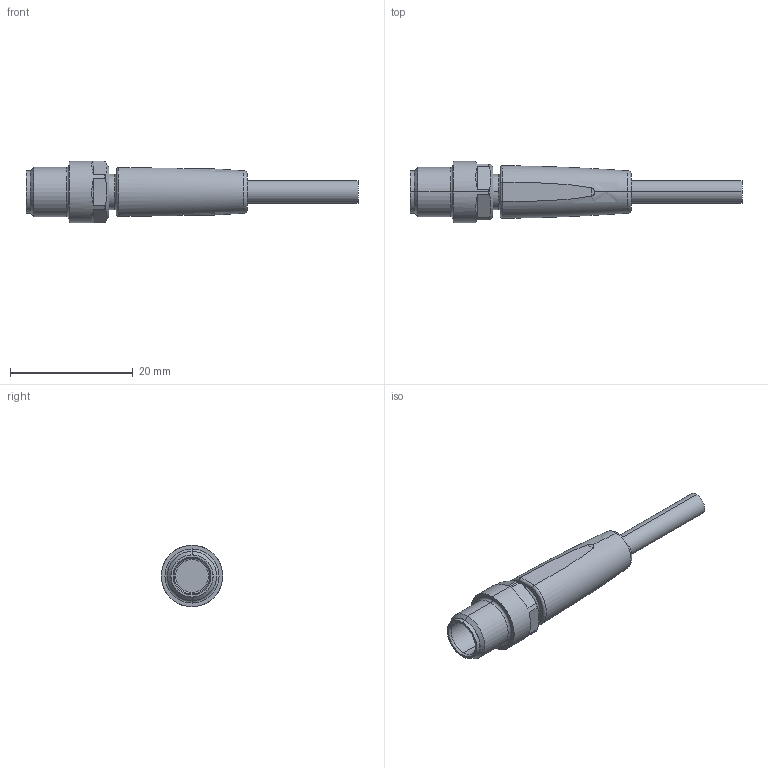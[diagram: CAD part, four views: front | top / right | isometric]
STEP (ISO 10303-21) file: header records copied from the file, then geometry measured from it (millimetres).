
FILE_DESCRIPTION (( 'STEP AP203' ), '1' );
FILE_NAME ('CAD_STP_SUV_0321.STEP', '2024-07-04T08:40:15', ( '' ), ( '' ), 'SwSTEP 2.0', 'SolidWorks 2022', '' );
FILE_SCHEMA (( 'CONFIG_CONTROL_DESIGN' ));
Length unit declared in the file: millimetre
Products named in the file (1): CAD_STP_SUV_0321
Bounding box: 54 x 10 x 10 mm (x, y, z)
Volume: 1951.9 mm3; surface area: 1381.2 mm2
Topology: 1 solids, 1 shells, 66 faces, 160 edges, 102 vertices
Faces by surface type: plane 22, cylinder 19, torus 17, cone 8
Entity records: 2168 total; most frequent: CARTESIAN_POINT 579, ORIENTED_EDGE 320, DIRECTION 315, EDGE_CURVE 160, AXIS2_PLACEMENT_3D 134, VERTEX_POINT 102, EDGE_LOOP 72, CIRCLE 67
